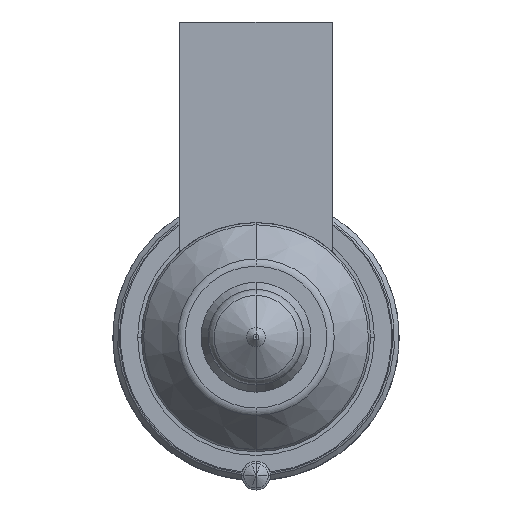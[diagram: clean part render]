
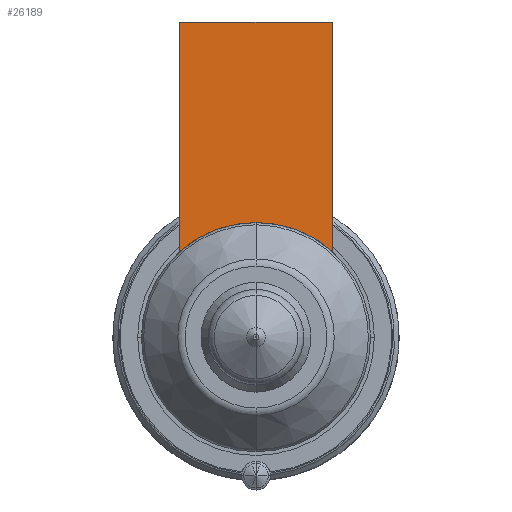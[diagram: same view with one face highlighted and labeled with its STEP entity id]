
A CAD part, front view. The second image highlights one B-rep face of the part: STEP entity #26189.
In plain terms, the highlighted planar face has unit normal (0, -1, 0).
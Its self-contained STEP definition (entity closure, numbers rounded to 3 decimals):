
#25341=DIRECTION('',(0.,0.,-1.));
#25342=VECTOR('',#25341,24.056);
#25343=CARTESIAN_POINT('',(-8.,-56.,33.));
#25344=LINE('',#25343,#25342);
#25381=DIRECTION('',(1.,0.,0.));
#25382=VECTOR('',#25381,16.);
#25383=CARTESIAN_POINT('',(-8.,-56.,33.));
#25384=LINE('',#25383,#25382);
#25388=CARTESIAN_POINT('',(0.,-56.,0.));
#25389=DIRECTION('',(0.,-1.,0.));
#25390=DIRECTION('',(0.667,0.,0.745));
#25391=AXIS2_PLACEMENT_3D('',#25388,#25389,#25390);
#25396=CARTESIAN_POINT('',(0.,-56.,0.));
#25397=DIRECTION('',(0.,-1.,0.));
#25398=DIRECTION('',(0.,0.,1.));
#25399=AXIS2_PLACEMENT_3D('',#25396,#25397,#25398);
#25432=DIRECTION('',(0.,0.,-1.));
#25433=VECTOR('',#25432,24.056);
#25434=CARTESIAN_POINT('',(8.,-56.,33.));
#25435=LINE('',#25434,#25433);
#26033=CARTESIAN_POINT('',(-8.,-56.,33.));
#26034=VERTEX_POINT('',#26033);
#26039=CARTESIAN_POINT('',(8.,-56.,33.));
#26040=VERTEX_POINT('',#26039);
#26043=CARTESIAN_POINT('',(-8.,-56.,8.944));
#26044=VERTEX_POINT('',#26043);
#26047=CARTESIAN_POINT('',(8.,-56.,8.944));
#26048=VERTEX_POINT('',#26047);
#26108=CARTESIAN_POINT('',(0.,-56.,12.));
#26109=VERTEX_POINT('',#26108);
#26174=CARTESIAN_POINT('',(-8.,-56.,33.));
#26175=DIRECTION('',(0.,-1.,0.));
#26176=DIRECTION('',(0.,0.,-1.));
#26177=AXIS2_PLACEMENT_3D('',#26174,#26175,#26176);
#26178=PLANE('',#26177);
#26179=ORIENTED_EDGE('',*,*,#26122,.F.);
#26181=ORIENTED_EDGE('',*,*,#26180,.T.);
#26183=ORIENTED_EDGE('',*,*,#26182,.T.);
#26185=ORIENTED_EDGE('',*,*,#26184,.T.);
#26186=ORIENTED_EDGE('',*,*,#26154,.T.);
#26187=EDGE_LOOP('',(#26179,#26181,#26183,#26185,#26186));
#26188=FACE_OUTER_BOUND('',#26187,.F.);
#26189=ADVANCED_FACE('',(#26188),#26178,.T.);
#25392=CIRCLE('',#25391,12.);
#25400=CIRCLE('',#25399,12.);
#26122=EDGE_CURVE('',#26034,#26044,#25344,.T.);
#26154=EDGE_CURVE('',#26109,#26044,#25400,.T.);
#26180=EDGE_CURVE('',#26034,#26040,#25384,.T.);
#26182=EDGE_CURVE('',#26040,#26048,#25435,.T.);
#26184=EDGE_CURVE('',#26048,#26109,#25392,.T.);
